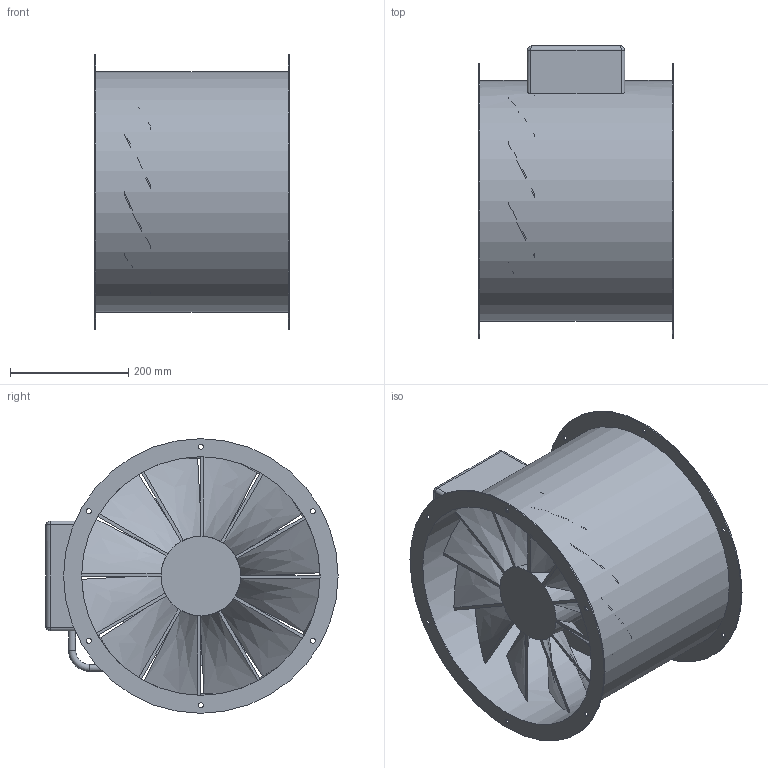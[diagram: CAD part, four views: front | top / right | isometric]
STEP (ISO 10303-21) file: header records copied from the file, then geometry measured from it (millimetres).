
FILE_DESCRIPTION(/* description */ (''),/* implementation_level */ '2;1');
FILE_NAME(/* name */ 'Z:\Output\HRFW 400-6-00206-020.stp',/* time_stamp */ '2017-05-04T18:35:44+02:00',/* author */ ('Engineering1'),/* organization */ (''),/* preprocessor_version */ 'ST-DEVELOPER v16.5',/* originating_system */ 'Autodesk Inventor 2017',/* authorisation */ '');
FILE_SCHEMA (('AUTOMOTIVE_DESIGN { 1 0 10303 214 3 1 1 }'));
Length unit declared in the file: millimetre
Products named in the file (1): HRF-1
Bounding box: 330 x 495 x 465 mm (x, y, z)
Volume: 9798837.3 mm3; surface area: 1581783.2 mm2
Topology: 2 solids, 2 shells, 107 faces, 265 edges, 161 vertices
Faces by surface type: bspline 40, plane 37, cylinder 29, torus 1
Full cylindrical faces by diameter (mm): 8.5 x12, 11.625 x3, 134.667 x1, 304 x1, 404 x1, 408 x1, 465 x2
Entity records: 4008 total; most frequent: CARTESIAN_POINT 1648, ORIENTED_EDGE 490, DIRECTION 404, EDGE_CURVE 233, EDGE_LOOP 174, VERTEX_POINT 157, AXIS2_PLACEMENT_3D 157, FACE_OUTER_BOUND 107
